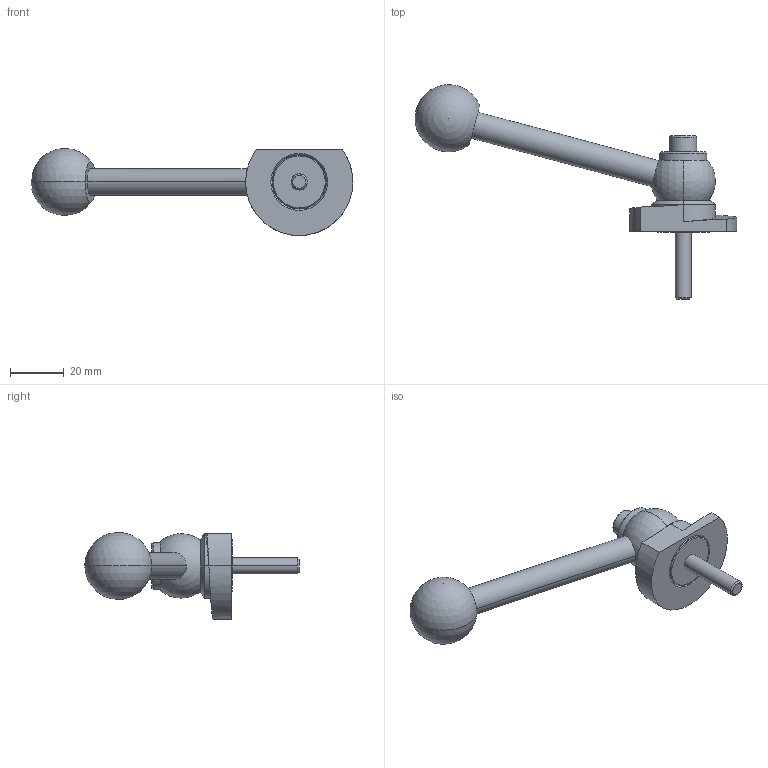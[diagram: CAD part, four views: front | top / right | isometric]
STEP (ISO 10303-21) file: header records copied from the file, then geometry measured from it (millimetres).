
FILE_DESCRIPTION (( 'STEP AP214' ), '1' );
FILE_NAME ('918.1-40-KVS-R-25.step', '2024-05-15T13:00:25', ( '' ), ( '' ), 'SwSTEP 2.0', 'SolidWorks 2022', '' );
FILE_SCHEMA (( 'AUTOMOTIVE_DESIGN' ));
Length unit declared in the file: millimetre
Products named in the file (1): 918.1-40-KVS-R-25
Bounding box: 119.95 x 79.99 x 32.5 mm (x, y, z)
Volume: 30457 mm3; surface area: 11307.3 mm2
Topology: 1 solids, 1 shells, 64 faces, 147 edges, 93 vertices
Faces by surface type: cylinder 22, plane 20, cone 14, sphere 4, torus 2, bspline 2
Entity records: 2045 total; most frequent: CARTESIAN_POINT 590, DIRECTION 321, ORIENTED_EDGE 274, EDGE_CURVE 137, AXIS2_PLACEMENT_3D 131, VERTEX_POINT 87, EDGE_LOOP 76, CIRCLE 68
